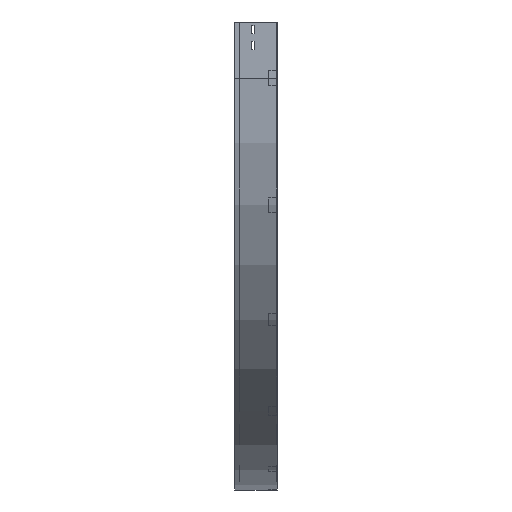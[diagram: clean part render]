
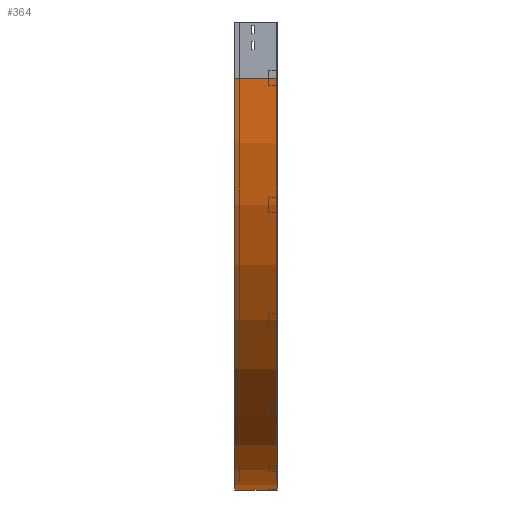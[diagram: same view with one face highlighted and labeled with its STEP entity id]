
A CAD part, left-side view. The second image highlights one B-rep face of the part: STEP entity #364.
In plain terms, the highlighted cylindrical face has radius 1100 mm (diameter 2200 mm), a partial arc.
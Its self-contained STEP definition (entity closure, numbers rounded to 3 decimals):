
#53 = CIRCLE ( 'NONE', #2248, 1100. ) ;
#71 = CARTESIAN_POINT ( 'NONE',  ( 1100., 112.5, -1250. ) ) ;
#94 = AXIS2_PLACEMENT_3D ( 'NONE', #3742, #1314, #107 ) ;
#107 = DIRECTION ( 'NONE',  ( 0., 0., -1. ) ) ;
#129 = EDGE_CURVE ( 'NONE', #2557, #1156, #3653, .T. ) ;
#364 = ADVANCED_FACE ( 'NONE', ( #1587 ), #1890, .T. ) ;
#468 = CARTESIAN_POINT ( 'NONE',  ( 0., 0., -150. ) ) ;
#518 = CARTESIAN_POINT ( 'NONE',  ( 1100., 112.5, -150. ) ) ;
#616 = EDGE_CURVE ( 'NONE', #2141, #674, #53, .T. ) ;
#674 = VERTEX_POINT ( 'NONE', #3873 ) ;
#828 = DIRECTION ( 'NONE',  ( 0., -1., 0. ) ) ;
#1062 = ORIENTED_EDGE ( 'NONE', *, *, #1661, .T. ) ;
#1156 = VERTEX_POINT ( 'NONE', #71 ) ;
#1159 = CARTESIAN_POINT ( 'NONE',  ( 1100., 0., -150. ) ) ;
#1314 = DIRECTION ( 'NONE',  ( 0., -1., 0. ) ) ;
#1485 = ORIENTED_EDGE ( 'NONE', *, *, #616, .F. ) ;
#1569 = VECTOR ( 'NONE', #828, 1000. ) ;
#1587 = FACE_OUTER_BOUND ( 'NONE', #2105, .T. ) ;
#1599 = DIRECTION ( 'NONE',  ( 0., -1., 0. ) ) ;
#1661 = EDGE_CURVE ( 'NONE', #1156, #674, #3848, .T. ) ;
#1890 = CYLINDRICAL_SURFACE ( 'NONE', #94, 1100. ) ;
#1937 = ORIENTED_EDGE ( 'NONE', *, *, #129, .T. ) ;
#2006 = VECTOR ( 'NONE', #1599, 1000. ) ;
#2068 = DIRECTION ( 'NONE',  ( -1., 0., 0. ) ) ;
#2105 = EDGE_LOOP ( 'NONE', ( #1485, #3335, #1937, #1062 ) ) ;
#2141 = VERTEX_POINT ( 'NONE', #2617 ) ;
#2248 = AXIS2_PLACEMENT_3D ( 'NONE', #1159, #2360, #2068 ) ;
#2359 = EDGE_CURVE ( 'NONE', #2557, #2141, #3734, .T. ) ;
#2360 = DIRECTION ( 'NONE',  ( 0., -1., 0. ) ) ;
#2557 = VERTEX_POINT ( 'NONE', #2871 ) ;
#2607 = DIRECTION ( 'NONE',  ( 0., -1., 0. ) ) ;
#2617 = CARTESIAN_POINT ( 'NONE',  ( 0., 0., -150. ) ) ;
#2649 = DIRECTION ( 'NONE',  ( -1., 0., 0. ) ) ;
#2871 = CARTESIAN_POINT ( 'NONE',  ( 0., 112.5, -150. ) ) ;
#2957 = AXIS2_PLACEMENT_3D ( 'NONE', #518, #2607, #2649 ) ;
#3335 = ORIENTED_EDGE ( 'NONE', *, *, #2359, .F. ) ;
#3653 = CIRCLE ( 'NONE', #2957, 1100. ) ;
#3734 = LINE ( 'NONE', #468, #2006 ) ;
#3742 = CARTESIAN_POINT ( 'NONE',  ( 1100., 0., -150. ) ) ;
#3782 = CARTESIAN_POINT ( 'NONE',  ( 1100., 0., -1250. ) ) ;
#3848 = LINE ( 'NONE', #3782, #1569 ) ;
#3873 = CARTESIAN_POINT ( 'NONE',  ( 1100., 0., -1250. ) ) ;
